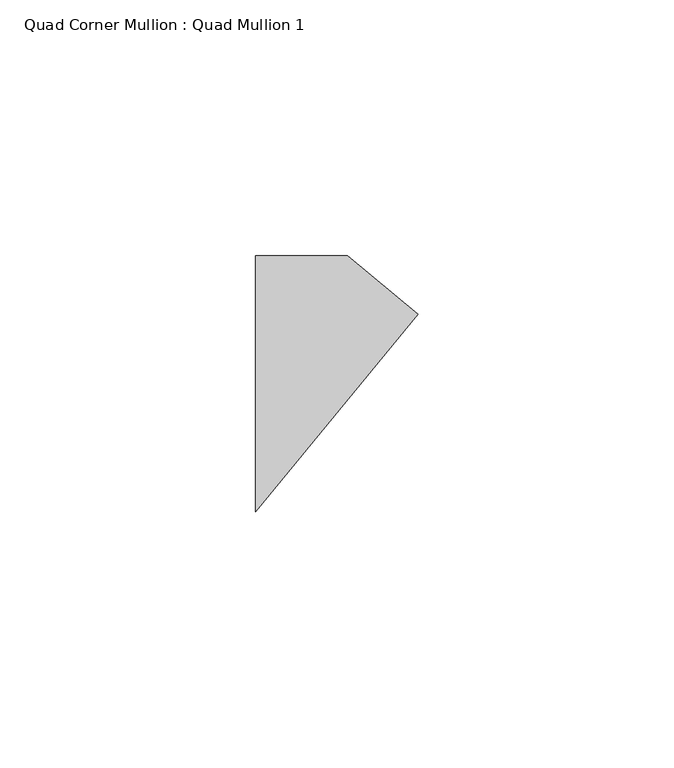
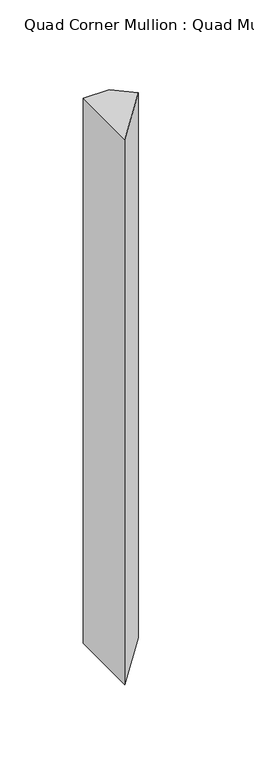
"""IFC4 building model written with IfcOpenShell, lengths in millimetres: member geometry, Quad Corner Mullion : Quad Mullion 1."""

from ifc_helpers import new_model, si_unit, frame, origin, place, context, project, spatial, polyline, outline, extrude, source, transform, mapped, element, save


def quad_corner_mullion_quad_mullion_1_e5e3e7b6(model_context):
    return source(origin(), model_context, "Body", "SweptSolid", [
        extrude(outline(polyline([(22.8068923, 13.6086231), (-8.963758, -25.0), (-8.963758, 25.0), (8.963758, 25.0), (22.8068923, 13.6086231)])), frame((0.0, 0.0, -400.0), z_axis=(0.0, 0.0, 1.0), x_axis=(1.0, 0.0, 0.0)), (0.0, 0.0, 1.0), 400.0),
    ])


if __name__ == "__main__":
    model = new_model("IFC4")
    model_context = context("Model", 3, world=origin())
    ifc_project = project(units=[si_unit("LENGTHUNIT", "METRE", prefix="MILLI")], contexts=[model_context])
    site = spatial("IfcSite", under=ifc_project)
    building = spatial("IfcBuilding", under=site)
    placement = place(None, origin())
    quad_corner_mullion_quad_mullion_1_shape = quad_corner_mullion_quad_mullion_1_e5e3e7b6(model_context)
    element("IfcMember", 1, ObjectType="Quad Corner Mullion : Quad Mullion 1", at=placement, inside=building, context=model_context, shape_type="MappedRepresentation", body=[
        mapped(quad_corner_mullion_quad_mullion_1_shape, transform((0.0, 0.0, 0.0), x_axis=(1.0, 0.0, 0.0), y_axis=(0.0, 1.0, 0.0), z_axis=(0.0, 0.0, 1.0))),
    ])
    save(model, "model.ifc")
